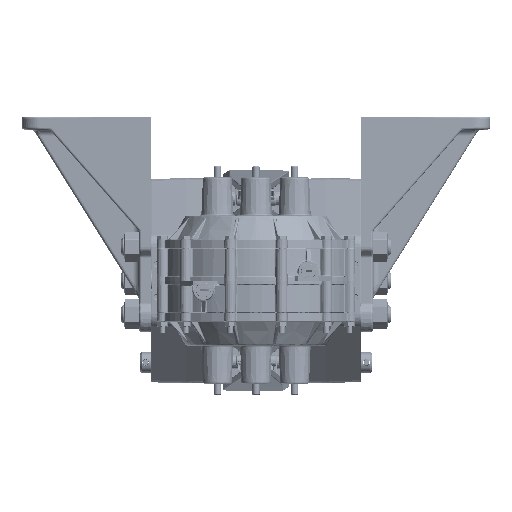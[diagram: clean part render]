
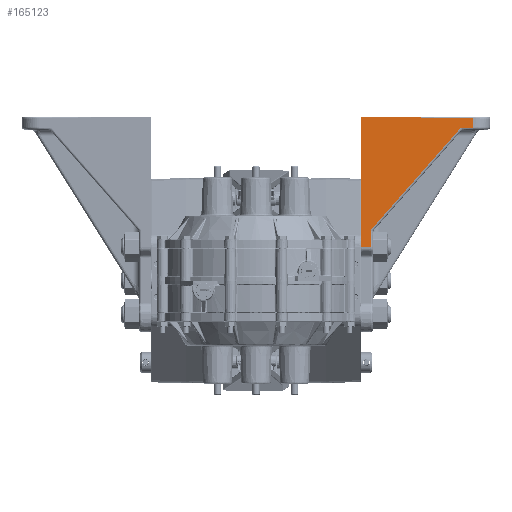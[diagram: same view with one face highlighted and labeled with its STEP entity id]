
A CAD part, left-side view. The second image highlights one B-rep face of the part: STEP entity #165123.
In plain terms, the highlighted planar face has unit normal (-1, -0.018, 0).
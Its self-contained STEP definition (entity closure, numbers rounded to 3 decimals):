
#1617 = LINE ( 'NONE', #89699, #187145 ) ;
#2968 = CARTESIAN_POINT ( 'NONE',  ( -5.695, -9.256, 6.924 ) ) ;
#5708 = AXIS2_PLACEMENT_3D ( 'NONE', #206582, #8722, #96832 ) ;
#8722 = DIRECTION ( 'NONE',  ( -1., -0.017, 0. ) ) ;
#9967 = VERTEX_POINT ( 'NONE', #2968 ) ;
#12287 = CARTESIAN_POINT ( 'NONE',  ( -5.695, -9.256, 7.11 ) ) ;
#13818 = VERTEX_POINT ( 'NONE', #40765 ) ;
#16845 = VECTOR ( 'NONE', #48189, 39.37 ) ;
#17826 = CARTESIAN_POINT ( 'NONE',  ( -5.778, -4.492, 6.987 ) ) ;
#20388 = ORIENTED_EDGE ( 'NONE', *, *, #212938, .F. ) ;
#30550 = VECTOR ( 'NONE', #100409, 39.37 ) ;
#40765 = CARTESIAN_POINT ( 'NONE',  ( -5.704, -8.749, 6.526 ) ) ;
#42114 = ORIENTED_EDGE ( 'NONE', *, *, #216430, .F. ) ;
#48189 = DIRECTION ( 'NONE',  ( 0.012, -0.661, 0.75 ) ) ;
#52167 = EDGE_CURVE ( 'NONE', #254544, #9967, #210147, .T. ) ;
#65487 = EDGE_CURVE ( 'NONE', #82757, #114752, #281255, .T. ) ;
#67226 = LINE ( 'NONE', #155283, #67232 ) ;
#67232 = VECTOR ( 'NONE', #243412, 39.37 ) ;
#69473 = CARTESIAN_POINT ( 'NONE',  ( -5.771, -4.894, 1.414 ) ) ;
#72284 = LINE ( 'NONE', #160350, #136967 ) ;
#82626 = VERTEX_POINT ( 'NONE', #127319 ) ;
#82757 = VERTEX_POINT ( 'NONE', #69473 ) ;
#83318 = CARTESIAN_POINT ( 'NONE',  ( -348.773, 19645.669, 1.414 ) ) ;
#84689 = DIRECTION ( 'NONE',  ( 0., 0., 1. ) ) ;
#86307 = ORIENTED_EDGE ( 'NONE', *, *, #268217, .T. ) ;
#89699 = CARTESIAN_POINT ( 'NONE',  ( -5.778, -4.492, 6.987 ) ) ;
#93467 = CARTESIAN_POINT ( 'NONE',  ( -5.695, -9.256, 6.534 ) ) ;
#96832 = DIRECTION ( 'NONE',  ( 0.017, -1., 0. ) ) ;
#100006 = ORIENTED_EDGE ( 'NONE', *, *, #65487, .F. ) ;
#100409 = DIRECTION ( 'NONE',  ( 0., 0., 1. ) ) ;
#101253 = ORIENTED_EDGE ( 'NONE', *, *, #260511, .T. ) ;
#103668 = ORIENTED_EDGE ( 'NONE', *, *, #212753, .T. ) ;
#105931 = DIRECTION ( 'NONE',  ( 0.017, -1., 0. ) ) ;
#114752 = VERTEX_POINT ( 'NONE', #248573 ) ;
#118479 = PLANE ( 'NONE',  #5708 ) ;
#127319 = CARTESIAN_POINT ( 'NONE',  ( -5.759, -5.595, 6.987 ) ) ;
#128313 = ORIENTED_EDGE ( 'NONE', *, *, #52167, .T. ) ;
#135215 = VECTOR ( 'NONE', #171418, 39.37 ) ;
#136967 = VECTOR ( 'NONE', #248467, 39.37 ) ;
#155283 = CARTESIAN_POINT ( 'NONE',  ( -5.695, -9.256, 6.924 ) ) ;
#157973 = LINE ( 'NONE', #246081, #16845 ) ;
#160350 = CARTESIAN_POINT ( 'NONE',  ( -5.704, -8.749, 6.526 ) ) ;
#165123 = ADVANCED_FACE ( 'NONE', ( #249940 ), #118479, .T. ) ;
#171418 = DIRECTION ( 'NONE',  ( -0.017, 1., 0. ) ) ;
#173376 = VECTOR ( 'NONE', #105931, 39.37 ) ;
#175483 = EDGE_CURVE ( 'NONE', #13818, #254544, #72284, .T. ) ;
#177800 = DIRECTION ( 'NONE',  ( 0., 0., 1. ) ) ;
#187145 = VECTOR ( 'NONE', #177800, 39.37 ) ;
#192781 = CARTESIAN_POINT ( 'NONE',  ( -5.771, -4.894, 2.148 ) ) ;
#194446 = LINE ( 'NONE', #282627, #206877 ) ;
#202221 = VERTEX_POINT ( 'NONE', #203714 ) ;
#203714 = CARTESIAN_POINT ( 'NONE',  ( -5.778, -4.492, 6.987 ) ) ;
#206582 = CARTESIAN_POINT ( 'NONE',  ( -5.781, -4.305, 7.11 ) ) ;
#206877 = VECTOR ( 'NONE', #84689, 39.37 ) ;
#210147 = LINE ( 'NONE', #12287, #30550 ) ;
#212753 = EDGE_CURVE ( 'NONE', #9967, #82626, #67226, .T. ) ;
#212938 = EDGE_CURVE ( 'NONE', #202221, #82626, #215710, .T. ) ;
#215710 = LINE ( 'NONE', #17826, #173376 ) ;
#216430 = EDGE_CURVE ( 'NONE', #114752, #202221, #1617, .T. ) ;
#223788 = VERTEX_POINT ( 'NONE', #192781 ) ;
#226350 = ORIENTED_EDGE ( 'NONE', *, *, #175483, .T. ) ;
#243412 = DIRECTION ( 'NONE',  ( -0.017, 1., 0.017 ) ) ;
#246081 = CARTESIAN_POINT ( 'NONE',  ( -5.771, -4.894, 2.148 ) ) ;
#248467 = DIRECTION ( 'NONE',  ( 0.017, -1., 0.017 ) ) ;
#248573 = CARTESIAN_POINT ( 'NONE',  ( -5.778, -4.493, 1.414 ) ) ;
#249940 = FACE_OUTER_BOUND ( 'NONE', #268874, .T. ) ;
#254544 = VERTEX_POINT ( 'NONE', #93467 ) ;
#260511 = EDGE_CURVE ( 'NONE', #223788, #13818, #157973, .T. ) ;
#268217 = EDGE_CURVE ( 'NONE', #82757, #223788, #194446, .T. ) ;
#268874 = EDGE_LOOP ( 'NONE', ( #103668, #20388, #42114, #100006, #86307, #101253, #226350, #128313 ) ) ;
#281255 = LINE ( 'NONE', #83318, #135215 ) ;
#282627 = CARTESIAN_POINT ( 'NONE',  ( -5.771, -4.894, 7.11 ) ) ;
